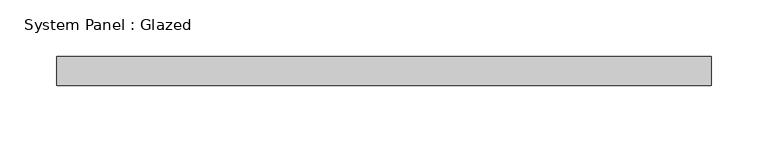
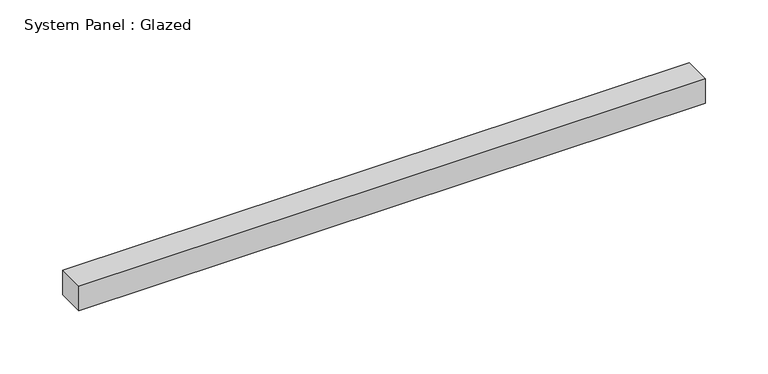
"""IFC4 building model written with IfcOpenShell, lengths in millimetres: plate geometry, System Panel : Glazed."""

from ifc_helpers import new_model, si_unit, origin, origin_with_axes, place, context, project, spatial, polyline, outline, extrude, source, transform, mapped, element, save


def system_panel_glazed_8171abf2(model_context):
    return source(origin(), model_context, "Body", "SweptSolid", [
        extrude(outline(polyline([(288.0093455, -44.45), (-288.0093455, -44.45), (-288.0093455, -19.05), (288.0093455, -19.05), (288.0093455, -44.45)])), origin_with_axes(), (0.0, 0.0, 1.0), 24.0243608),
    ])


if __name__ == "__main__":
    model = new_model("IFC4")
    model_context = context("Model", 3, world=origin())
    ifc_project = project(units=[si_unit("LENGTHUNIT", "METRE", prefix="MILLI")], contexts=[model_context])
    site = spatial("IfcSite", under=ifc_project)
    building = spatial("IfcBuilding", under=site)
    placement = place(None, origin())
    system_panel_glazed_shape = system_panel_glazed_8171abf2(model_context)
    element("IfcPlate", 1, ObjectType="System Panel : Glazed", at=placement, inside=building, context=model_context, shape_type="MappedRepresentation", body=[
        mapped(system_panel_glazed_shape, transform((0.0, 0.0, 0.0), x_axis=(1.0, 0.0, 0.0), y_axis=(0.0, 1.0, 0.0), z_axis=(0.0, 0.0, 1.0))),
    ])
    save(model, "model.ifc")
